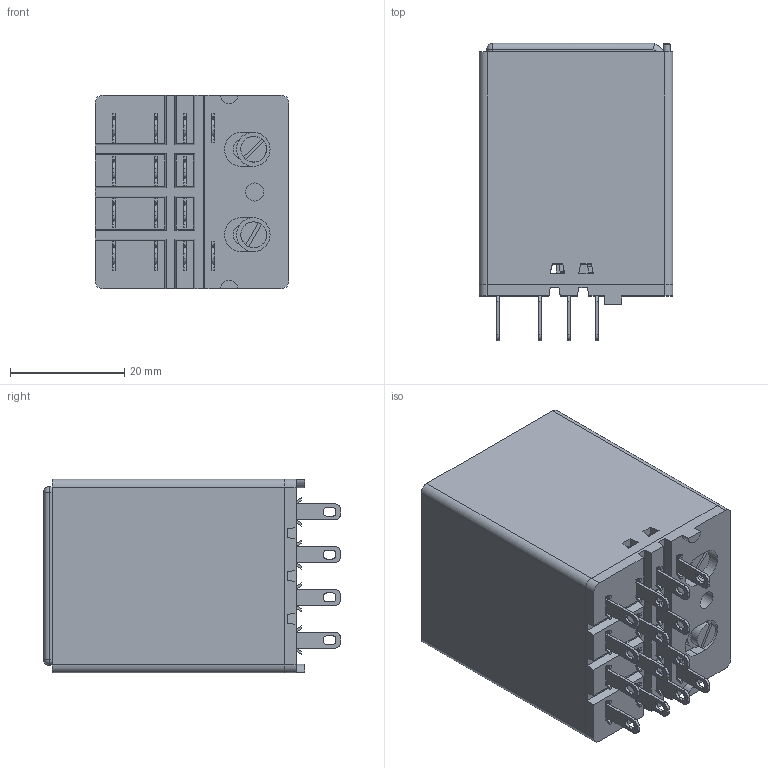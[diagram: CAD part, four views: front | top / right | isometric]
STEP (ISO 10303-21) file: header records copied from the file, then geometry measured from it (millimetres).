
FILE_DESCRIPTION(('STEP AP214'), '1');
FILE_NAME('Ðåëå ÐÏ21Ì-004', '', ('UNSPECIFIED'), ('UNSPECIFIED'), 'ASCON STEP Converter 1.6', 'ASCON Math Kernel', '');
FILE_SCHEMA(('AUTOMOTIVE_DESIGN { 1 0 10303 214 3 1 1}'));
Length unit declared in the file: millimetre
Bounding box: 34 x 52.1 x 34 mm (x, y, z)
Volume: 13451.2 mm3; surface area: 18729.3 mm2
Topology: 18 solids, 18 shells, 832 faces, 2327 edges, 1534 vertices
Faces by surface type: plane 650, cylinder 174, bspline 2, torus 2, sphere 2, cone 2
Full cylindrical faces by diameter (mm): 1 x6, 2.5 x2, 2.9 x2, 3.2 x1, 4.5 x2, 6 x2
Entity records: 33446 total; most frequent: CARTESIAN_POINT 4806, ORIENTED_EDGE 4621, DIRECTION 4326, EDGE_CURVE 2312, LINE 1946, VECTOR 1946, VERTEX_POINT 1534, AXIS2_PLACEMENT_3D 1190
